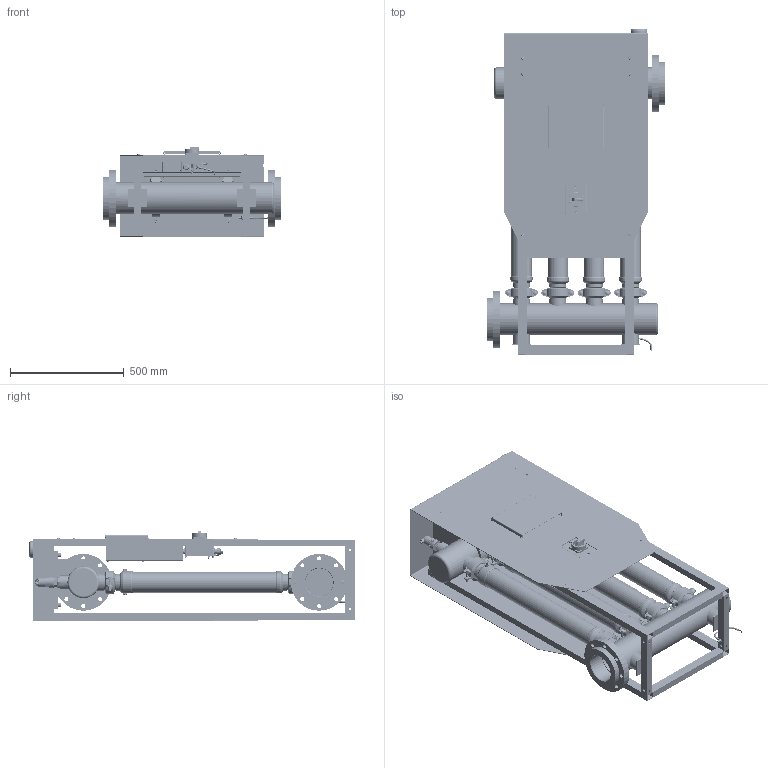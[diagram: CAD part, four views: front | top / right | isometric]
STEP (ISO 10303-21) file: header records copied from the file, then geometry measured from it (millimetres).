
FILE_DESCRIPTION(/* description */ (''),/* implementation_level */ '2;1');
FILE_NAME(/* name */ 'H-A Pro 30-40 M_3D_V1.0.stp',/* time_stamp */ '2024-11-04T11:39:11+01:00',/* author */ ('MassimoMaselli'),/* organization */ (''),/* preprocessor_version */ 'ST-DEVELOPER v20',/* originating_system */ 'Autodesk Inventor 2024',/* authorisation */ '');
FILE_SCHEMA (('AUTOMOTIVE_DESIGN { 1 0 10303 214 3 1 1 }'));
Products named in the file (1): H-A Pro 30-40 M_V1.0
Bounding box: 782 x 1433.3 x 399.8 mm (x, y, z)
Volume: 25870309.3 mm3; surface area: 11734247 mm2
Topology: 171 solids, 192 shells, 10049 faces, 25388 edges, 16402 vertices
Faces by surface type: plane 4736, cylinder 2431, bspline 1552, cone 846, torus 401, sphere 83
Full cylindrical faces by diameter (mm): 0.6 x32, 0.65 x32, 0.7 x32, 1 x36, 1.1 x32, 1.17 x32, 1.24 x32, 1.567 x12, 1.92 x3, 2 x1, 3 x1, 3.2 x5, 3.242 x18, 3.251 x5, 3.3 x2, 3.5 x6, 4 x12, 4.134 x12, 4.2 x2, 4.25 x4, 4.3 x8, 4.394 x3, 4.5 x1, 4.6 x14, 4.826 x5, 5 x13, 5.2 x8, 6 x10, 6.1 x2, 6.198 x5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
Entity records: 382153 total; most frequent: CARTESIAN_POINT 133924, ORIENTED_EDGE 50466, DIRECTION 47124, EDGE_CURVE 25250, AXIS2_PLACEMENT_3D 16878, VERTEX_POINT 16400, LINE 13368, VECTOR 13368
